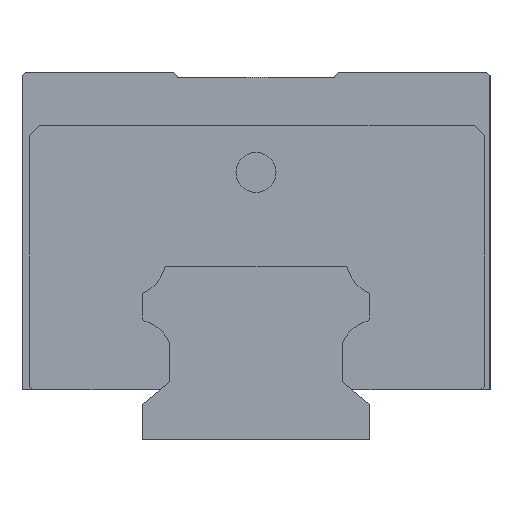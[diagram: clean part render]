
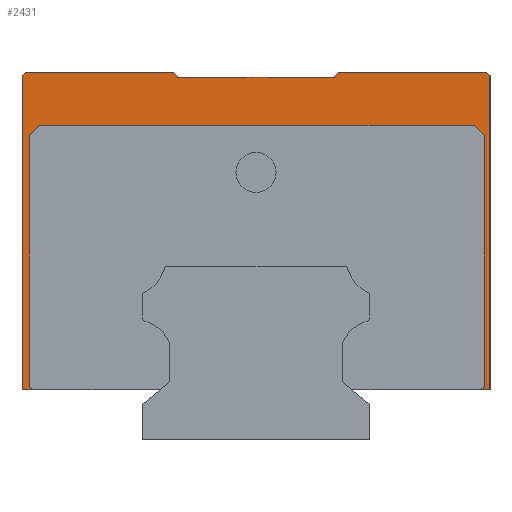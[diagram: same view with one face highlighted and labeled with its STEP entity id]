
A CAD part, left-side view. The second image highlights one B-rep face of the part: STEP entity #2431.
In plain terms, the highlighted planar face has unit normal (-1, 0, 0).
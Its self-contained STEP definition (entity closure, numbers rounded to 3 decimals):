
#24 = VECTOR ( 'NONE', #348, 1000. ) ;
#32 = CARTESIAN_POINT ( 'NONE',  ( -39.5, 33.872, 45.5 ) ) ;
#46 = LINE ( 'NONE', #3550, #3224 ) ;
#47 = DIRECTION ( 'NONE',  ( 0., 0., 1. ) ) ;
#77 = DIRECTION ( 'NONE',  ( 0., 0.707, -0.707 ) ) ;
#95 = VECTOR ( 'NONE', #2057, 1000. ) ;
#134 = ORIENTED_EDGE ( 'NONE', *, *, #5280, .T. ) ;
#144 = VECTOR ( 'NONE', #4545, 1000. ) ;
#162 = EDGE_CURVE ( 'NONE', #727, #5423, #780, .T. ) ;
#175 = LINE ( 'NONE', #4618, #452 ) ;
#203 = DIRECTION ( 'NONE',  ( 0., -0.707, -0.707 ) ) ;
#230 = EDGE_CURVE ( 'NONE', #3297, #3761, #5416, .T. ) ;
#256 = LINE ( 'NONE', #4737, #24 ) ;
#325 = CARTESIAN_POINT ( 'NONE',  ( -39.5, 34.5, 55. ) ) ;
#348 = DIRECTION ( 'NONE',  ( 0., 1., 0. ) ) ;
#363 = VERTEX_POINT ( 'NONE', #1044 ) ;
#408 = DIRECTION ( 'NONE',  ( 0., 0., -1. ) ) ;
#452 = VECTOR ( 'NONE', #203, 1000. ) ;
#464 = LINE ( 'NONE', #4110, #5640 ) ;
#476 = LINE ( 'NONE', #4063, #5296 ) ;
#516 = DIRECTION ( 'NONE',  ( 0., 0.643, 0.766 ) ) ;
#597 = VERTEX_POINT ( 'NONE', #3646 ) ;
#707 = DIRECTION ( 'NONE',  ( 0., 0.707, 0.707 ) ) ;
#727 = VERTEX_POINT ( 'NONE', #5025 ) ;
#763 = VECTOR ( 'NONE', #3263, 1000. ) ;
#766 = CARTESIAN_POINT ( 'NONE',  ( -39.5, 12.296, 55. ) ) ;
#780 = LINE ( 'NONE', #3040, #5089 ) ;
#824 = CARTESIAN_POINT ( 'NONE',  ( -39.5, -35., 55. ) ) ;
#840 = DIRECTION ( 'NONE',  ( 0., -1., 0. ) ) ;
#872 = VECTOR ( 'NONE', #5790, 1000. ) ;
#914 = VERTEX_POINT ( 'NONE', #4847 ) ;
#928 = VERTEX_POINT ( 'NONE', #766 ) ;
#939 = LINE ( 'NONE', #2292, #2532 ) ;
#1044 = CARTESIAN_POINT ( 'NONE',  ( -39.5, -34.128, 8. ) ) ;
#1057 = VERTEX_POINT ( 'NONE', #4018 ) ;
#1068 = CARTESIAN_POINT ( 'NONE',  ( -39.5, -34.128, 45.5 ) ) ;
#1074 = EDGE_CURVE ( 'NONE', #4285, #5404, #939, .T. ) ;
#1300 = ORIENTED_EDGE ( 'NONE', *, *, #4327, .F. ) ;
#1323 = CARTESIAN_POINT ( 'NONE',  ( -39.5, -35., 55. ) ) ;
#1332 = EDGE_CURVE ( 'NONE', #5006, #928, #4861, .T. ) ;
#1431 = LINE ( 'NONE', #1930, #4275 ) ;
#1456 = DIRECTION ( 'NONE',  ( 0., -1., 0. ) ) ;
#1496 = ORIENTED_EDGE ( 'NONE', *, *, #3741, .F. ) ;
#1530 = VECTOR ( 'NONE', #1884, 1000. ) ;
#1534 = CARTESIAN_POINT ( 'NONE',  ( -39.5, -12.296, 55. ) ) ;
#1812 = VECTOR ( 'NONE', #408, 1000. ) ;
#1884 = DIRECTION ( 'NONE',  ( 0., 0.707, -0.707 ) ) ;
#1930 = CARTESIAN_POINT ( 'NONE',  ( -39.5, 11.667, 54.25 ) ) ;
#1933 = EDGE_CURVE ( 'NONE', #3761, #4496, #175, .T. ) ;
#1936 = VERTEX_POINT ( 'NONE', #4264 ) ;
#1999 = LINE ( 'NONE', #1534, #763 ) ;
#2034 = ORIENTED_EDGE ( 'NONE', *, *, #1074, .F. ) ;
#2042 = ORIENTED_EDGE ( 'NONE', *, *, #230, .F. ) ;
#2057 = DIRECTION ( 'NONE',  ( 0., 0.707, 0.707 ) ) ;
#2081 = DIRECTION ( 'NONE',  ( 1., 0., 0. ) ) ;
#2119 = CARTESIAN_POINT ( 'NONE',  ( -39.5, 11.667, 54.25 ) ) ;
#2154 = EDGE_CURVE ( 'NONE', #597, #5090, #256, .T. ) ;
#2179 = EDGE_CURVE ( 'NONE', #1936, #1057, #4464, .T. ) ;
#2208 = ORIENTED_EDGE ( 'NONE', *, *, #3005, .T. ) ;
#2257 = ORIENTED_EDGE ( 'NONE', *, *, #2154, .F. ) ;
#2292 = CARTESIAN_POINT ( 'NONE',  ( -39.5, 35., 7.5 ) ) ;
#2297 = ORIENTED_EDGE ( 'NONE', *, *, #2179, .F. ) ;
#2375 = CARTESIAN_POINT ( 'NONE',  ( -39.5, 33.372, 7.5 ) ) ;
#2414 = LINE ( 'NONE', #1068, #95 ) ;
#2431 = ADVANCED_FACE ( 'NONE', ( #5460 ), #5629, .F. ) ;
#2464 = ORIENTED_EDGE ( 'NONE', *, *, #2865, .T. ) ;
#2514 = ORIENTED_EDGE ( 'NONE', *, *, #5230, .F. ) ;
#2532 = VECTOR ( 'NONE', #47, 1000. ) ;
#2568 = DIRECTION ( 'NONE',  ( 0., 1., 0. ) ) ;
#2576 = VECTOR ( 'NONE', #4951, 1000. ) ;
#2636 = EDGE_CURVE ( 'NONE', #1057, #3473, #2722, .T. ) ;
#2641 = CARTESIAN_POINT ( 'NONE',  ( -39.5, 35., 54.5 ) ) ;
#2722 = LINE ( 'NONE', #4867, #2576 ) ;
#2767 = VERTEX_POINT ( 'NONE', #3948 ) ;
#2770 = LINE ( 'NONE', #3205, #1530 ) ;
#2865 = EDGE_CURVE ( 'NONE', #1936, #2767, #4890, .T. ) ;
#2924 = ORIENTED_EDGE ( 'NONE', *, *, #1933, .F. ) ;
#3000 = EDGE_CURVE ( 'NONE', #3473, #363, #3188, .T. ) ;
#3005 = EDGE_CURVE ( 'NONE', #5423, #928, #1431, .T. ) ;
#3040 = CARTESIAN_POINT ( 'NONE',  ( -39.5, -11.667, 54.25 ) ) ;
#3188 = LINE ( 'NONE', #4573, #144 ) ;
#3205 = CARTESIAN_POINT ( 'NONE',  ( -39.5, 32.372, 47. ) ) ;
#3217 = ORIENTED_EDGE ( 'NONE', *, *, #1332, .F. ) ;
#3224 = VECTOR ( 'NONE', #4017, 1000. ) ;
#3263 = DIRECTION ( 'NONE',  ( 0., 0.643, -0.766 ) ) ;
#3297 = VERTEX_POINT ( 'NONE', #5239 ) ;
#3455 = EDGE_CURVE ( 'NONE', #4673, #2767, #476, .T. ) ;
#3473 = VERTEX_POINT ( 'NONE', #4095 ) ;
#3550 = CARTESIAN_POINT ( 'NONE',  ( -39.5, 14.65, 7.5 ) ) ;
#3634 = CARTESIAN_POINT ( 'NONE',  ( -39.5, -12.296, 55. ) ) ;
#3646 = CARTESIAN_POINT ( 'NONE',  ( -39.5, -32.628, 47. ) ) ;
#3675 = VECTOR ( 'NONE', #4352, 1000. ) ;
#3713 = VECTOR ( 'NONE', #707, 1000. ) ;
#3741 = EDGE_CURVE ( 'NONE', #5090, #3297, #2770, .T. ) ;
#3761 = VERTEX_POINT ( 'NONE', #4115 ) ;
#3850 = VECTOR ( 'NONE', #840, 1000. ) ;
#3948 = CARTESIAN_POINT ( 'NONE',  ( -39.5, -34.5, 55. ) ) ;
#3956 = ORIENTED_EDGE ( 'NONE', *, *, #3000, .F. ) ;
#4017 = DIRECTION ( 'NONE',  ( 0., 1., 0. ) ) ;
#4018 = CARTESIAN_POINT ( 'NONE',  ( -39.5, -35., 7.5 ) ) ;
#4063 = CARTESIAN_POINT ( 'NONE',  ( -39.5, 35., 55. ) ) ;
#4091 = CARTESIAN_POINT ( 'NONE',  ( -39.5, 32.372, 47. ) ) ;
#4095 = CARTESIAN_POINT ( 'NONE',  ( -39.5, -33.628, 7.5 ) ) ;
#4110 = CARTESIAN_POINT ( 'NONE',  ( -39.5, 34.5, 55. ) ) ;
#4115 = CARTESIAN_POINT ( 'NONE',  ( -39.5, 33.872, 8. ) ) ;
#4264 = CARTESIAN_POINT ( 'NONE',  ( -39.5, -35., 54.5 ) ) ;
#4275 = VECTOR ( 'NONE', #516, 1000. ) ;
#4285 = VERTEX_POINT ( 'NONE', #4897 ) ;
#4308 = ORIENTED_EDGE ( 'NONE', *, *, #162, .T. ) ;
#4318 = CARTESIAN_POINT ( 'NONE',  ( -39.5, -34.128, 8. ) ) ;
#4327 = EDGE_CURVE ( 'NONE', #4496, #4285, #46, .T. ) ;
#4352 = DIRECTION ( 'NONE',  ( 0., 0., 1. ) ) ;
#4390 = CARTESIAN_POINT ( 'NONE',  ( -39.5, 35., 55. ) ) ;
#4446 = AXIS2_PLACEMENT_3D ( 'NONE', #824, #2081, #5157 ) ;
#4464 = LINE ( 'NONE', #1323, #1812 ) ;
#4496 = VERTEX_POINT ( 'NONE', #2375 ) ;
#4545 = DIRECTION ( 'NONE',  ( 0., -0.707, 0.707 ) ) ;
#4573 = CARTESIAN_POINT ( 'NONE',  ( -39.5, -33.628, 7.5 ) ) ;
#4618 = CARTESIAN_POINT ( 'NONE',  ( -39.5, 33.872, 8. ) ) ;
#4673 = VERTEX_POINT ( 'NONE', #3634 ) ;
#4703 = ORIENTED_EDGE ( 'NONE', *, *, #3455, .F. ) ;
#4737 = CARTESIAN_POINT ( 'NONE',  ( -39.5, -32.628, 47. ) ) ;
#4847 = CARTESIAN_POINT ( 'NONE',  ( -39.5, -34.128, 45.5 ) ) ;
#4861 = LINE ( 'NONE', #4390, #3850 ) ;
#4867 = CARTESIAN_POINT ( 'NONE',  ( -39.5, -35., 7.5 ) ) ;
#4890 = LINE ( 'NONE', #5606, #3713 ) ;
#4897 = CARTESIAN_POINT ( 'NONE',  ( -39.5, 35., 7.5 ) ) ;
#4951 = DIRECTION ( 'NONE',  ( 0., 1., 0. ) ) ;
#4963 = EDGE_LOOP ( 'NONE', ( #5691, #3956, #5765, #2297, #2464, #4703, #134, #4308, #2208, #3217, #5598, #2034, #1300, #2924, #2042, #1496, #2257, #2514 ) ) ;
#5006 = VERTEX_POINT ( 'NONE', #325 ) ;
#5025 = CARTESIAN_POINT ( 'NONE',  ( -39.5, -11.667, 54.25 ) ) ;
#5089 = VECTOR ( 'NONE', #2568, 1000. ) ;
#5090 = VERTEX_POINT ( 'NONE', #4091 ) ;
#5157 = DIRECTION ( 'NONE',  ( 0., 1., 0. ) ) ;
#5230 = EDGE_CURVE ( 'NONE', #914, #597, #2414, .T. ) ;
#5239 = CARTESIAN_POINT ( 'NONE',  ( -39.5, 33.872, 45.5 ) ) ;
#5280 = EDGE_CURVE ( 'NONE', #4673, #727, #1999, .T. ) ;
#5296 = VECTOR ( 'NONE', #1456, 1000. ) ;
#5404 = VERTEX_POINT ( 'NONE', #2641 ) ;
#5416 = LINE ( 'NONE', #32, #872 ) ;
#5423 = VERTEX_POINT ( 'NONE', #2119 ) ;
#5460 = FACE_OUTER_BOUND ( 'NONE', #4963, .T. ) ;
#5461 = EDGE_CURVE ( 'NONE', #363, #914, #5697, .T. ) ;
#5596 = EDGE_CURVE ( 'NONE', #5006, #5404, #464, .T. ) ;
#5598 = ORIENTED_EDGE ( 'NONE', *, *, #5596, .T. ) ;
#5606 = CARTESIAN_POINT ( 'NONE',  ( -39.5, -35., 54.5 ) ) ;
#5629 = PLANE ( 'NONE',  #4446 ) ;
#5640 = VECTOR ( 'NONE', #77, 1000. ) ;
#5691 = ORIENTED_EDGE ( 'NONE', *, *, #5461, .F. ) ;
#5697 = LINE ( 'NONE', #4318, #3675 ) ;
#5765 = ORIENTED_EDGE ( 'NONE', *, *, #2636, .F. ) ;
#5790 = DIRECTION ( 'NONE',  ( 0., 0., -1. ) ) ;
